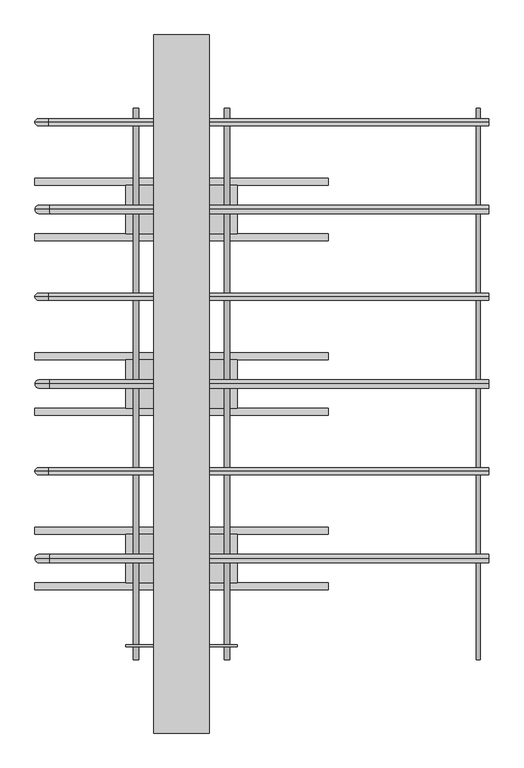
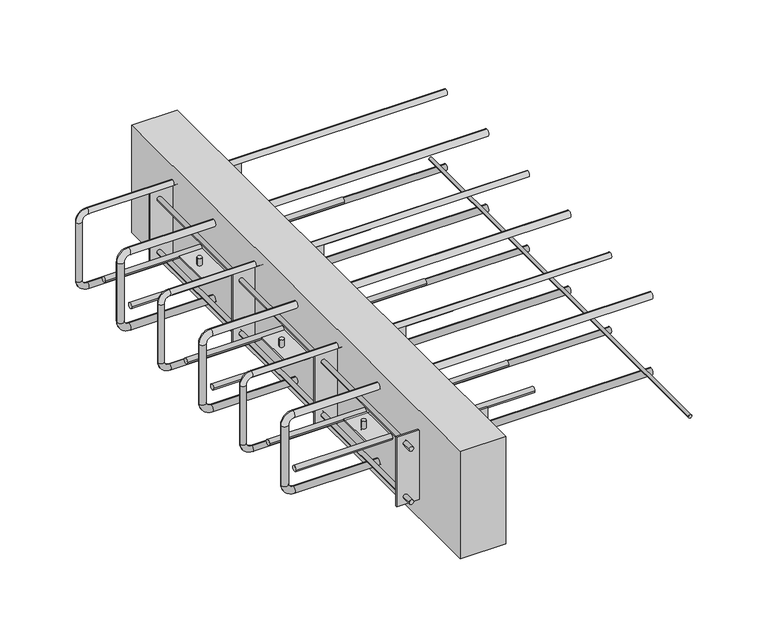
"""IFC4 building model written with IfcOpenShell, lengths in millimetres: fastener geometry, ACINOXplus_Typenreihe_Ux-Ox : UC+ S3."""

from ifc_helpers import new_model, si_unit, point, frame, frame_2d, origin, place, context, project, spatial, polyline, circle_curve, ellipse_curve, trimmed, segment, composite_curve, outline, extrude, source, transform, mapped, element, save
from ifc_brep_helpers import plane_surface, cylinder_surface, revolved_surface, advanced_brep


def fastener_f916d90b(model_context):
    return source(origin(), model_context, "Body", "SolidModel", [
        advanced_brep(
        [(440.0, 0.0, -23.5), (440.0, 0.0, -35.5), (-189.0, 0.0, -23.5), (-189.0, 0.0, -35.5), (-198.0, 0.0, -44.5), (-210.0, 0.0, -44.5), (-210.0, 0.0, -155.5), (-198.0, 0.0, -155.5), (-189.0, 0.0, -164.5), (-189.0, 0.0, -176.5), (440.0, 0.0, -176.5), (440.0, 0.0, -164.5)],
        [
            (0, 1, circle_curve(frame((440.0, 0.0, -29.5), z_axis=(1.0, 0.0, 0.0), x_axis=(0.0, 0.0, -1.0)), 6.0)),
            (1, 0, circle_curve(frame((440.0, 0.0, -29.5), z_axis=(1.0, 0.0, 0.0), x_axis=(0.0, 0.0, -1.0)), 6.0)),
            (0, 2),
            (2, 3, circle_curve(frame((-189.0, 0.0, -29.5), z_axis=(1.0, 0.0, 0.0), x_axis=(0.0, 0.0, -1.0)), 6.0)),
            (3, 1),
            (3, 2, circle_curve(frame((-189.0, 0.0, -29.5), z_axis=(1.0, 0.0, 0.0), x_axis=(0.0, 0.0, -1.0)), 6.0)),
            (4, 3, circle_curve(frame((-189.0, 0.0, -44.5), z_axis=(0.0, 1.0, 0.0), x_axis=(0.0, 0.0, 1.0)), 9.0)),
            (2, 5, circle_curve(frame((-189.0, 0.0, -44.5), z_axis=(0.0, -1.0, 0.0), x_axis=(0.0, 0.0, 1.0)), 21.0)),
            (5, 4, circle_curve(frame((-204.0, 0.0, -44.5), z_axis=(0.0, 0.0, 1.0), x_axis=(1.0, 0.0, 0.0)), 6.0)),
            (4, 5, circle_curve(frame((-204.0, 0.0, -44.5), z_axis=(0.0, 0.0, 1.0), x_axis=(1.0, 0.0, 0.0)), 6.0)),
            (5, 6),
            (6, 7, circle_curve(frame((-204.0, 0.0, -155.5), z_axis=(0.0, 0.0, 1.0), x_axis=(1.0, 0.0, 0.0)), 6.0)),
            (7, 4),
            (7, 6, circle_curve(frame((-204.0, 0.0, -155.5), z_axis=(0.0, 0.0, 1.0), x_axis=(1.0, 0.0, 0.0)), 6.0)),
            (8, 7, circle_curve(frame((-189.0, 0.0, -155.5), z_axis=(0.0, 1.0, 0.0), x_axis=(-1.0, 0.0, 0.0)), 9.0)),
            (6, 9, circle_curve(frame((-189.0, 0.0, -155.5), z_axis=(0.0, -1.0, 0.0), x_axis=(-1.0, 0.0, 0.0)), 21.0)),
            (9, 8, circle_curve(frame((-189.0, 0.0, -170.5), z_axis=(-1.0, 0.0, 0.0), x_axis=(0.0, 0.0, 1.0)), 6.0)),
            (8, 9, circle_curve(frame((-189.0, 0.0, -170.5), z_axis=(-1.0, 0.0, 0.0), x_axis=(0.0, 0.0, 1.0)), 6.0)),
            (10, 11, circle_curve(frame((440.0, 0.0, -170.5), z_axis=(1.0, 0.0, 0.0), x_axis=(0.0, 0.0, 1.0)), 6.0)),
            (11, 10, circle_curve(frame((440.0, 0.0, -170.5), z_axis=(1.0, 0.0, 0.0), x_axis=(0.0, 0.0, 1.0)), 6.0)),
            (9, 10),
            (11, 8),
        ],
        [
            plane_surface(frame((440.0, 0.0, -29.5), z_axis=(1.0, 0.0, 0.0), x_axis=(0.0, -1.0, 0.0))),
            cylinder_surface(frame((440.0, 0.0, -29.5), z_axis=(1.0, 0.0, 0.0), x_axis=(0.0, 0.0, -1.0)), 6.0),
            revolved_surface(trimmed(ellipse_curve(frame((-189.0, 0.0, -29.5), z_axis=(1.0, 0.0, 0.0), x_axis=(0.0, 0.0, -1.0)), 6.0, 6.0), [point((-189.0, 0.0, -23.5))], [point((-189.0, 0.0, -35.5))], True, "CARTESIAN"), (-189.0, 0.0, -44.5), (0.0, -1.0, 0.0)),
            revolved_surface(trimmed(ellipse_curve(frame((-189.0, 0.0, -29.5), z_axis=(1.0, 0.0, 0.0), x_axis=(0.0, 0.0, -1.0)), 6.0, 6.0), [point((-189.0, 0.0, -35.5))], [point((-189.0, 0.0, -23.5))], True, "CARTESIAN"), (-189.0, 0.0, -44.5), (0.0, -1.0, 0.0)),
            cylinder_surface(frame((-204.0, 0.0, -44.5), z_axis=(0.0, 0.0, 1.0), x_axis=(1.0, 0.0, 0.0)), 6.0),
            revolved_surface(trimmed(ellipse_curve(frame((-204.0, 0.0, -155.5), z_axis=(0.0, 0.0, 1.0), x_axis=(1.0, 0.0, 0.0)), 6.0, 6.0), [point((-210.0, 0.0, -155.5))], [point((-198.0, 0.0, -155.5))], True, "CARTESIAN"), (-189.0, 0.0, -155.5), (0.0, -1.0, 0.0)),
            revolved_surface(trimmed(ellipse_curve(frame((-204.0, 0.0, -155.5), z_axis=(0.0, 0.0, 1.0), x_axis=(1.0, 0.0, 0.0)), 6.0, 6.0), [point((-198.0, 0.0, -155.5))], [point((-210.0, 0.0, -155.5))], True, "CARTESIAN"), (-189.0, 0.0, -155.5), (0.0, -1.0, 0.0)),
            plane_surface(frame((440.0, 0.0, -170.5), z_axis=(1.0, 0.0, 0.0), x_axis=(0.0, -1.0, 0.0))),
            cylinder_surface(frame((-189.0, 0.0, -170.5), z_axis=(-1.0, 0.0, 0.0), x_axis=(0.0, 0.0, 1.0)), 6.0),
        ],
        [
            (0, [[1, 2]]),
            (1, [[-1, 3, 4, 5]]),
            (1, [[-2, -5, 6, -3]]),
            (2, [[7, -4, 8, 9]]),
            (3, [[-8, -6, -7, 10]]),
            (4, [[-9, 11, 12, 13]]),
            (4, [[-10, -13, 14, -11]]),
            (5, [[15, -12, 16, 17]]),
            (6, [[-16, -14, -15, 18]]),
            (7, [[19, 20]]),
            (8, [[-17, 21, -20, 22]]),
            (8, [[-18, -22, -19, -21]]),
        ],
    ),
        advanced_brep(
        [(440.0, 250.0, -23.5), (440.0, 250.0, -35.5), (-189.0, 250.0, -23.5), (-189.0, 250.0, -35.5), (-198.0, 250.0, -44.5), (-210.0, 250.0, -44.5), (-210.0, 250.0, -155.5), (-198.0, 250.0, -155.5), (-189.0, 250.0, -164.5), (-189.0, 250.0, -176.5), (440.0, 250.0, -176.5), (440.0, 250.0, -164.5)],
        [
            (0, 1, circle_curve(frame((440.0, 250.0, -29.5), z_axis=(1.0, 0.0, 0.0), x_axis=(0.0, 0.0, -1.0)), 6.0)),
            (1, 0, circle_curve(frame((440.0, 250.0, -29.5), z_axis=(1.0, 0.0, 0.0), x_axis=(0.0, 0.0, -1.0)), 6.0)),
            (0, 2),
            (2, 3, circle_curve(frame((-189.0, 250.0, -29.5), z_axis=(1.0, 0.0, 0.0), x_axis=(0.0, 0.0, -1.0)), 6.0)),
            (3, 1),
            (3, 2, circle_curve(frame((-189.0, 250.0, -29.5), z_axis=(1.0, 0.0, 0.0), x_axis=(0.0, 0.0, -1.0)), 6.0)),
            (4, 3, circle_curve(frame((-189.0, 250.0, -44.5), z_axis=(0.0, 1.0, 0.0), x_axis=(0.0, 0.0, 1.0)), 9.0)),
            (2, 5, circle_curve(frame((-189.0, 250.0, -44.5), z_axis=(0.0, -1.0, 0.0), x_axis=(0.0, 0.0, 1.0)), 21.0)),
            (5, 4, circle_curve(frame((-204.0, 250.0, -44.5), z_axis=(0.0, 0.0, 1.0), x_axis=(1.0, 0.0, 0.0)), 6.0)),
            (4, 5, circle_curve(frame((-204.0, 250.0, -44.5), z_axis=(0.0, 0.0, 1.0), x_axis=(1.0, 0.0, 0.0)), 6.0)),
            (5, 6),
            (6, 7, circle_curve(frame((-204.0, 250.0, -155.5), z_axis=(0.0, 0.0, 1.0), x_axis=(1.0, 0.0, 0.0)), 6.0)),
            (7, 4),
            (7, 6, circle_curve(frame((-204.0, 250.0, -155.5), z_axis=(0.0, 0.0, 1.0), x_axis=(1.0, 0.0, 0.0)), 6.0)),
            (8, 7, circle_curve(frame((-189.0, 250.0, -155.5), z_axis=(0.0, 1.0, 0.0), x_axis=(-1.0, 0.0, 0.0)), 9.0)),
            (6, 9, circle_curve(frame((-189.0, 250.0, -155.5), z_axis=(0.0, -1.0, 0.0), x_axis=(-1.0, 0.0, 0.0)), 21.0)),
            (9, 8, circle_curve(frame((-189.0, 250.0, -170.5), z_axis=(-1.0, 0.0, 0.0), x_axis=(0.0, 0.0, 1.0)), 6.0)),
            (8, 9, circle_curve(frame((-189.0, 250.0, -170.5), z_axis=(-1.0, 0.0, 0.0), x_axis=(0.0, 0.0, 1.0)), 6.0)),
            (10, 11, circle_curve(frame((440.0, 250.0, -170.5), z_axis=(1.0, 0.0, 0.0), x_axis=(0.0, 0.0, 1.0)), 6.0)),
            (11, 10, circle_curve(frame((440.0, 250.0, -170.5), z_axis=(1.0, 0.0, 0.0), x_axis=(0.0, 0.0, 1.0)), 6.0)),
            (9, 10),
            (11, 8),
        ],
        [
            plane_surface(frame((440.0, 250.0, -29.5), z_axis=(1.0, 0.0, 0.0), x_axis=(0.0, -1.0, 0.0))),
            cylinder_surface(frame((440.0, 250.0, -29.5), z_axis=(1.0, 0.0, 0.0), x_axis=(0.0, 0.0, -1.0)), 6.0),
            revolved_surface(trimmed(ellipse_curve(frame((-189.0, 250.0, -29.5), z_axis=(1.0, 0.0, 0.0), x_axis=(0.0, 0.0, -1.0)), 6.0, 6.0), [point((-189.0, 250.0, -23.5))], [point((-189.0, 250.0, -35.5))], True, "CARTESIAN"), (-189.0, 250.0, -44.5), (0.0, -1.0, 0.0)),
            revolved_surface(trimmed(ellipse_curve(frame((-189.0, 250.0, -29.5), z_axis=(1.0, 0.0, 0.0), x_axis=(0.0, 0.0, -1.0)), 6.0, 6.0), [point((-189.0, 250.0, -35.5))], [point((-189.0, 250.0, -23.5))], True, "CARTESIAN"), (-189.0, 250.0, -44.5), (0.0, -1.0, 0.0)),
            cylinder_surface(frame((-204.0, 250.0, -44.5), z_axis=(0.0, 0.0, 1.0), x_axis=(1.0, 0.0, 0.0)), 6.0),
            revolved_surface(trimmed(ellipse_curve(frame((-204.0, 250.0, -155.5), z_axis=(0.0, 0.0, 1.0), x_axis=(1.0, 0.0, 0.0)), 6.0, 6.0), [point((-210.0, 250.0, -155.5))], [point((-198.0, 250.0, -155.5))], True, "CARTESIAN"), (-189.0, 250.0, -155.5), (0.0, -1.0, 0.0)),
            revolved_surface(trimmed(ellipse_curve(frame((-204.0, 250.0, -155.5), z_axis=(0.0, 0.0, 1.0), x_axis=(1.0, 0.0, 0.0)), 6.0, 6.0), [point((-198.0, 250.0, -155.5))], [point((-210.0, 250.0, -155.5))], True, "CARTESIAN"), (-189.0, 250.0, -155.5), (0.0, -1.0, 0.0)),
            plane_surface(frame((440.0, 250.0, -170.5), z_axis=(1.0, 0.0, 0.0), x_axis=(0.0, -1.0, 0.0))),
            cylinder_surface(frame((-189.0, 250.0, -170.5), z_axis=(-1.0, 0.0, 0.0), x_axis=(0.0, 0.0, 1.0)), 6.0),
        ],
        [
            (0, [[1, 2]]),
            (1, [[-1, 3, 4, 5]]),
            (1, [[-2, -5, 6, -3]]),
            (2, [[7, -4, 8, 9]]),
            (3, [[-8, -6, -7, 10]]),
            (4, [[-9, 11, 12, 13]]),
            (4, [[-10, -13, 14, -11]]),
            (5, [[15, -12, 16, 17]]),
            (6, [[-16, -14, -15, 18]]),
            (7, [[19, 20]]),
            (8, [[-17, 21, -20, 22]]),
            (8, [[-18, -22, -19, -21]]),
        ],
    ),
        advanced_brep(
        [(440.0, -250.0, -23.5), (440.0, -250.0, -35.5), (-189.0, -250.0, -23.5), (-189.0, -250.0, -35.5), (-198.0, -250.0, -44.5), (-210.0, -250.0, -44.5), (-210.0, -250.0, -155.5), (-198.0, -250.0, -155.5), (-189.0, -250.0, -164.5), (-189.0, -250.0, -176.5), (440.0, -250.0, -176.5), (440.0, -250.0, -164.5)],
        [
            (0, 1, circle_curve(frame((440.0, -250.0, -29.5), z_axis=(1.0, 0.0, 0.0), x_axis=(0.0, 0.0, -1.0)), 6.0)),
            (1, 0, circle_curve(frame((440.0, -250.0, -29.5), z_axis=(1.0, 0.0, 0.0), x_axis=(0.0, 0.0, -1.0)), 6.0)),
            (0, 2),
            (2, 3, circle_curve(frame((-189.0, -250.0, -29.5), z_axis=(1.0, 0.0, 0.0), x_axis=(0.0, 0.0, -1.0)), 6.0)),
            (3, 1),
            (3, 2, circle_curve(frame((-189.0, -250.0, -29.5), z_axis=(1.0, 0.0, 0.0), x_axis=(0.0, 0.0, -1.0)), 6.0)),
            (4, 3, circle_curve(frame((-189.0, -250.0, -44.5), z_axis=(0.0, 1.0, 0.0), x_axis=(0.0, 0.0, 1.0)), 9.0)),
            (2, 5, circle_curve(frame((-189.0, -250.0, -44.5), z_axis=(0.0, -1.0, 0.0), x_axis=(0.0, 0.0, 1.0)), 21.0)),
            (5, 4, circle_curve(frame((-204.0, -250.0, -44.5), z_axis=(0.0, 0.0, 1.0), x_axis=(1.0, 0.0, 0.0)), 6.0)),
            (4, 5, circle_curve(frame((-204.0, -250.0, -44.5), z_axis=(0.0, 0.0, 1.0), x_axis=(1.0, 0.0, 0.0)), 6.0)),
            (5, 6),
            (6, 7, circle_curve(frame((-204.0, -250.0, -155.5), z_axis=(0.0, 0.0, 1.0), x_axis=(1.0, 0.0, 0.0)), 6.0)),
            (7, 4),
            (7, 6, circle_curve(frame((-204.0, -250.0, -155.5), z_axis=(0.0, 0.0, 1.0), x_axis=(1.0, 0.0, 0.0)), 6.0)),
            (8, 7, circle_curve(frame((-189.0, -250.0, -155.5), z_axis=(0.0, 1.0, 0.0), x_axis=(-1.0, 0.0, 0.0)), 9.0)),
            (6, 9, circle_curve(frame((-189.0, -250.0, -155.5), z_axis=(0.0, -1.0, 0.0), x_axis=(-1.0, 0.0, 0.0)), 21.0)),
            (9, 8, circle_curve(frame((-189.0, -250.0, -170.5), z_axis=(-1.0, 0.0, 0.0), x_axis=(0.0, 0.0, 1.0)), 6.0)),
            (8, 9, circle_curve(frame((-189.0, -250.0, -170.5), z_axis=(-1.0, 0.0, 0.0), x_axis=(0.0, 0.0, 1.0)), 6.0)),
            (10, 11, circle_curve(frame((440.0, -250.0, -170.5), z_axis=(1.0, 0.0, 0.0), x_axis=(0.0, 0.0, 1.0)), 6.0)),
            (11, 10, circle_curve(frame((440.0, -250.0, -170.5), z_axis=(1.0, 0.0, 0.0), x_axis=(0.0, 0.0, 1.0)), 6.0)),
            (9, 10),
            (11, 8),
        ],
        [
            plane_surface(frame((440.0, -250.0, -29.5), z_axis=(1.0, 0.0, 0.0), x_axis=(0.0, -1.0, 0.0))),
            cylinder_surface(frame((440.0, -250.0, -29.5), z_axis=(1.0, 0.0, 0.0), x_axis=(0.0, 0.0, -1.0)), 6.0),
            revolved_surface(trimmed(ellipse_curve(frame((-189.0, -250.0, -29.5), z_axis=(1.0, 0.0, 0.0), x_axis=(0.0, 0.0, -1.0)), 6.0, 6.0), [point((-189.0, -250.0, -23.5))], [point((-189.0, -250.0, -35.5))], True, "CARTESIAN"), (-189.0, -250.0, -44.5), (0.0, -1.0, 0.0)),
            revolved_surface(trimmed(ellipse_curve(frame((-189.0, -250.0, -29.5), z_axis=(1.0, 0.0, 0.0), x_axis=(0.0, 0.0, -1.0)), 6.0, 6.0), [point((-189.0, -250.0, -35.5))], [point((-189.0, -250.0, -23.5))], True, "CARTESIAN"), (-189.0, -250.0, -44.5), (0.0, -1.0, 0.0)),
            cylinder_surface(frame((-204.0, -250.0, -44.5), z_axis=(0.0, 0.0, 1.0), x_axis=(1.0, 0.0, 0.0)), 6.0),
            revolved_surface(trimmed(ellipse_curve(frame((-204.0, -250.0, -155.5), z_axis=(0.0, 0.0, 1.0), x_axis=(1.0, 0.0, 0.0)), 6.0, 6.0), [point((-210.0, -250.0, -155.5))], [point((-198.0, -250.0, -155.5))], True, "CARTESIAN"), (-189.0, -250.0, -155.5), (0.0, -1.0, 0.0)),
            revolved_surface(trimmed(ellipse_curve(frame((-204.0, -250.0, -155.5), z_axis=(0.0, 0.0, 1.0), x_axis=(1.0, 0.0, 0.0)), 6.0, 6.0), [point((-198.0, -250.0, -155.5))], [point((-210.0, -250.0, -155.5))], True, "CARTESIAN"), (-189.0, -250.0, -155.5), (0.0, -1.0, 0.0)),
            plane_surface(frame((440.0, -250.0, -170.5), z_axis=(1.0, 0.0, 0.0), x_axis=(0.0, -1.0, 0.0))),
            cylinder_surface(frame((-189.0, -250.0, -170.5), z_axis=(-1.0, 0.0, 0.0), x_axis=(0.0, 0.0, 1.0)), 6.0),
        ],
        [
            (0, [[1, 2]]),
            (1, [[-1, 3, 4, 5]]),
            (1, [[-2, -5, 6, -3]]),
            (2, [[7, -4, 8, 9]]),
            (3, [[-8, -6, -7, 10]]),
            (4, [[-9, 11, 12, 13]]),
            (4, [[-10, -13, 14, -11]]),
            (5, [[15, -12, 16, 17]]),
            (6, [[-16, -14, -15, 18]]),
            (7, [[19, 20]]),
            (8, [[-17, 21, -20, 22]]),
            (8, [[-18, -22, -19, -21]]),
        ],
    ),
        extrude(outline(composite_curve([segment(trimmed(circle_curve(frame_2d((-161.5, 425.0)), 3.0), [point((-161.5, 428.0))], [point((-161.5, 422.0))], False, "CARTESIAN"), True, "CONTINUOUS"), segment(trimmed(circle_curve(frame_2d((-161.5, 425.0)), 3.0), [point((-161.5, 422.0))], [point((-161.5, 428.0))], False, "CARTESIAN"), True, "CONTINUOUS")], self_intersect=False)), frame((0.0, -395.0, 0.0), z_axis=(0.0, 1.0, 0.0), x_axis=(0.0, 0.0, 1.0)), (0.0, 0.0, 1.0), 790.0),
        extrude(outline(composite_curve([segment(trimmed(circle_curve(frame_2d((-40.0, -100.0)), 5.0), [point((-45.0, -100.0))], [point((-35.0, -100.0))], False, "CARTESIAN"), True, "CONTINUOUS"), segment(trimmed(circle_curve(frame_2d((-40.0, -100.0)), 5.0), [point((-35.0, -100.0))], [point((-45.0, -100.0))], False, "CARTESIAN"), True, "CONTINUOUS")], self_intersect=False)), frame((-210.0, 0.0, 0.0), z_axis=(1.0, 0.0, 0.0), x_axis=(0.0, 1.0, 0.0)), (0.0, 0.0, 1.0), 420.0),
        extrude(outline(composite_curve([segment(trimmed(circle_curve(frame_2d((40.0, -100.0)), 5.0), [point((35.0, -100.0))], [point((45.0, -100.0))], False, "CARTESIAN"), True, "CONTINUOUS"), segment(trimmed(circle_curve(frame_2d((40.0, -100.0)), 5.0), [point((45.0, -100.0))], [point((35.0, -100.0))], False, "CARTESIAN"), True, "CONTINUOUS")], self_intersect=False)), frame((-210.0, 0.0, 0.0), z_axis=(1.0, 0.0, 0.0), x_axis=(0.0, 1.0, 0.0)), (0.0, 0.0, 1.0), 420.0),
        extrude(outline(composite_curve([segment(trimmed(circle_curve(frame_2d((-65.0, 0.0)), 4.0), [point((-61.0, 0.0))], [point((-69.0, 0.0))], False, "CARTESIAN"), True, "CONTINUOUS"), segment(trimmed(circle_curve(frame_2d((-65.0, 0.0)), 4.0), [point((-69.0, 0.0))], [point((-61.0, 0.0))], False, "CARTESIAN"), True, "CONTINUOUS")], self_intersect=False)), frame((0.0, 0.0, -98.5), z_axis=(0.0, 0.0, 1.0), x_axis=(1.0, 0.0, 0.0)), (0.0, 0.0, 1.0), 13.5),
        extrude(outline(composite_curve([segment(trimmed(circle_curve(frame_2d((65.0, 0.0)), 4.0), [point((69.0, 0.0))], [point((61.0, 0.0))], False, "CARTESIAN"), True, "CONTINUOUS"), segment(trimmed(circle_curve(frame_2d((65.0, 0.0)), 4.0), [point((61.0, 0.0))], [point((69.0, 0.0))], False, "CARTESIAN"), True, "CONTINUOUS")], self_intersect=False)), frame((0.0, 0.0, -98.5), z_axis=(0.0, 0.0, 1.0), x_axis=(1.0, 0.0, 0.0)), (0.0, 0.0, 1.0), 13.5),
        extrude(outline(composite_curve([segment(trimmed(circle_curve(frame_2d((-65.0, 0.0)), 4.0), [point((-69.0, 0.0))], [point((-61.0, 0.0))], False, "CARTESIAN"), True, "CONTINUOUS"), segment(trimmed(circle_curve(frame_2d((-65.0, 0.0)), 4.0), [point((-61.0, 0.0))], [point((-69.0, 0.0))], False, "CARTESIAN"), True, "CONTINUOUS")], self_intersect=False)), frame((0.0, 0.0, -115.0), z_axis=(0.0, 0.0, 1.0), x_axis=(1.0, 0.0, 0.0)), (0.0, 0.0, 1.0), 13.5),
        extrude(outline(composite_curve([segment(trimmed(circle_curve(frame_2d((65.0, 0.0)), 4.0), [point((61.0, 0.0))], [point((69.0, 0.0))], False, "CARTESIAN"), True, "CONTINUOUS"), segment(trimmed(circle_curve(frame_2d((65.0, 0.0)), 4.0), [point((69.0, 0.0))], [point((61.0, 0.0))], False, "CARTESIAN"), True, "CONTINUOUS")], self_intersect=False)), frame((0.0, 0.0, -115.0), z_axis=(0.0, 0.0, 1.0), x_axis=(1.0, 0.0, 0.0)), (0.0, 0.0, 1.0), 13.5),
        extrude(outline(polyline([(80.0, 35.0), (80.0, -35.0), (-80.0, -35.0), (-80.0, 35.0), (80.0, 35.0)])), frame((0.0, 0.0, -101.5), z_axis=(0.0, 0.0, 1.0), x_axis=(1.0, 0.0, 0.0)), (0.0, 0.0, 1.0), 3.0),
        extrude(outline(composite_curve([segment(trimmed(circle_curve(frame_2d((-290.0, -100.0)), 5.0), [point((-295.0, -100.0))], [point((-285.0, -100.0))], False, "CARTESIAN"), True, "CONTINUOUS"), segment(trimmed(circle_curve(frame_2d((-290.0, -100.0)), 5.0), [point((-285.0, -100.0))], [point((-295.0, -100.0))], False, "CARTESIAN"), True, "CONTINUOUS")], self_intersect=False)), frame((-210.0, 0.0, 0.0), z_axis=(1.0, 0.0, 0.0), x_axis=(0.0, 1.0, 0.0)), (0.0, 0.0, 1.0), 420.0),
        extrude(outline(composite_curve([segment(trimmed(circle_curve(frame_2d((-210.0, -100.0)), 5.0), [point((-215.0, -100.0))], [point((-205.0, -100.0))], False, "CARTESIAN"), True, "CONTINUOUS"), segment(trimmed(circle_curve(frame_2d((-210.0, -100.0)), 5.0), [point((-205.0, -100.0))], [point((-215.0, -100.0))], False, "CARTESIAN"), True, "CONTINUOUS")], self_intersect=False)), frame((-210.0, 0.0, 0.0), z_axis=(1.0, 0.0, 0.0), x_axis=(0.0, 1.0, 0.0)), (0.0, 0.0, 1.0), 420.0),
        extrude(outline(composite_curve([segment(trimmed(circle_curve(frame_2d((-65.0, -250.0)), 4.0), [point((-61.0, -250.0))], [point((-69.0, -250.0))], False, "CARTESIAN"), True, "CONTINUOUS"), segment(trimmed(circle_curve(frame_2d((-65.0, -250.0)), 4.0), [point((-69.0, -250.0))], [point((-61.0, -250.0))], False, "CARTESIAN"), True, "CONTINUOUS")], self_intersect=False)), frame((0.0, 0.0, -98.5), z_axis=(0.0, 0.0, 1.0), x_axis=(1.0, 0.0, 0.0)), (0.0, 0.0, 1.0), 13.5),
        extrude(outline(composite_curve([segment(trimmed(circle_curve(frame_2d((65.0, -250.0)), 4.0), [point((69.0, -250.0))], [point((61.0, -250.0))], False, "CARTESIAN"), True, "CONTINUOUS"), segment(trimmed(circle_curve(frame_2d((65.0, -250.0)), 4.0), [point((61.0, -250.0))], [point((69.0, -250.0))], False, "CARTESIAN"), True, "CONTINUOUS")], self_intersect=False)), frame((0.0, 0.0, -98.5), z_axis=(0.0, 0.0, 1.0), x_axis=(1.0, 0.0, 0.0)), (0.0, 0.0, 1.0), 13.5),
        extrude(outline(composite_curve([segment(trimmed(circle_curve(frame_2d((-65.0, -250.0)), 4.0), [point((-69.0, -250.0))], [point((-61.0, -250.0))], False, "CARTESIAN"), True, "CONTINUOUS"), segment(trimmed(circle_curve(frame_2d((-65.0, -250.0)), 4.0), [point((-61.0, -250.0))], [point((-69.0, -250.0))], False, "CARTESIAN"), True, "CONTINUOUS")], self_intersect=False)), frame((0.0, 0.0, -115.0), z_axis=(0.0, 0.0, 1.0), x_axis=(1.0, 0.0, 0.0)), (0.0, 0.0, 1.0), 13.5),
        extrude(outline(composite_curve([segment(trimmed(circle_curve(frame_2d((65.0, -250.0)), 4.0), [point((61.0, -250.0))], [point((69.0, -250.0))], False, "CARTESIAN"), True, "CONTINUOUS"), segment(trimmed(circle_curve(frame_2d((65.0, -250.0)), 4.0), [point((69.0, -250.0))], [point((61.0, -250.0))], False, "CARTESIAN"), True, "CONTINUOUS")], self_intersect=False)), frame((0.0, 0.0, -115.0), z_axis=(0.0, 0.0, 1.0), x_axis=(1.0, 0.0, 0.0)), (0.0, 0.0, 1.0), 13.5),
        extrude(outline(polyline([(80.0, -215.0), (80.0, -285.0), (-80.0, -285.0), (-80.0, -215.0), (80.0, -215.0)])), frame((0.0, 0.0, -101.5), z_axis=(0.0, 0.0, 1.0), x_axis=(1.0, 0.0, 0.0)), (0.0, 0.0, 1.0), 3.0),
        extrude(outline(composite_curve([segment(trimmed(circle_curve(frame_2d((210.0, -100.0)), 5.0), [point((205.0, -100.0))], [point((215.0, -100.0))], False, "CARTESIAN"), True, "CONTINUOUS"), segment(trimmed(circle_curve(frame_2d((210.0, -100.0)), 5.0), [point((215.0, -100.0))], [point((205.0, -100.0))], False, "CARTESIAN"), True, "CONTINUOUS")], self_intersect=False)), frame((-210.0, 0.0, 0.0), z_axis=(1.0, 0.0, 0.0), x_axis=(0.0, 1.0, 0.0)), (0.0, 0.0, 1.0), 420.0),
        extrude(outline(composite_curve([segment(trimmed(circle_curve(frame_2d((290.0, -100.0)), 5.0), [point((285.0, -100.0))], [point((295.0, -100.0))], False, "CARTESIAN"), True, "CONTINUOUS"), segment(trimmed(circle_curve(frame_2d((290.0, -100.0)), 5.0), [point((295.0, -100.0))], [point((285.0, -100.0))], False, "CARTESIAN"), True, "CONTINUOUS")], self_intersect=False)), frame((-210.0, 0.0, 0.0), z_axis=(1.0, 0.0, 0.0), x_axis=(0.0, 1.0, 0.0)), (0.0, 0.0, 1.0), 420.0),
        extrude(outline(composite_curve([segment(trimmed(circle_curve(frame_2d((-65.0, 250.0)), 4.0), [point((-61.0, 250.0))], [point((-69.0, 250.0))], False, "CARTESIAN"), True, "CONTINUOUS"), segment(trimmed(circle_curve(frame_2d((-65.0, 250.0)), 4.0), [point((-69.0, 250.0))], [point((-61.0, 250.0))], False, "CARTESIAN"), True, "CONTINUOUS")], self_intersect=False)), frame((0.0, 0.0, -98.5), z_axis=(0.0, 0.0, 1.0), x_axis=(1.0, 0.0, 0.0)), (0.0, 0.0, 1.0), 13.5),
        extrude(outline(composite_curve([segment(trimmed(circle_curve(frame_2d((65.0, 250.0)), 4.0), [point((69.0, 250.0))], [point((61.0, 250.0))], False, "CARTESIAN"), True, "CONTINUOUS"), segment(trimmed(circle_curve(frame_2d((65.0, 250.0)), 4.0), [point((61.0, 250.0))], [point((69.0, 250.0))], False, "CARTESIAN"), True, "CONTINUOUS")], self_intersect=False)), frame((0.0, 0.0, -98.5), z_axis=(0.0, 0.0, 1.0), x_axis=(1.0, 0.0, 0.0)), (0.0, 0.0, 1.0), 13.5),
        extrude(outline(composite_curve([segment(trimmed(circle_curve(frame_2d((-65.0, 250.0)), 4.0), [point((-69.0, 250.0))], [point((-61.0, 250.0))], False, "CARTESIAN"), True, "CONTINUOUS"), segment(trimmed(circle_curve(frame_2d((-65.0, 250.0)), 4.0), [point((-61.0, 250.0))], [point((-69.0, 250.0))], False, "CARTESIAN"), True, "CONTINUOUS")], self_intersect=False)), frame((0.0, 0.0, -115.0), z_axis=(0.0, 0.0, 1.0), x_axis=(1.0, 0.0, 0.0)), (0.0, 0.0, 1.0), 13.5),
        extrude(outline(composite_curve([segment(trimmed(circle_curve(frame_2d((65.0, 250.0)), 4.0), [point((61.0, 250.0))], [point((69.0, 250.0))], False, "CARTESIAN"), True, "CONTINUOUS"), segment(trimmed(circle_curve(frame_2d((65.0, 250.0)), 4.0), [point((69.0, 250.0))], [point((61.0, 250.0))], False, "CARTESIAN"), True, "CONTINUOUS")], self_intersect=False)), frame((0.0, 0.0, -115.0), z_axis=(0.0, 0.0, 1.0), x_axis=(1.0, 0.0, 0.0)), (0.0, 0.0, 1.0), 13.5),
        extrude(outline(polyline([(80.0, 285.0), (80.0, 215.0), (-80.0, 215.0), (-80.0, 285.0), (80.0, 285.0)])), frame((0.0, 0.0, -101.5), z_axis=(0.0, 0.0, 1.0), x_axis=(1.0, 0.0, 0.0)), (0.0, 0.0, 1.0), 3.0),
        extrude(outline(polyline([(40.0, 500.0), (40.0, -500.0), (-40.0, -500.0), (-40.0, 500.0), (40.0, 500.0)])), frame((0.0, 0.0, -200.0), z_axis=(0.0, 0.0, 1.0), x_axis=(1.0, 0.0, 0.0)), (0.0, 0.0, 1.0), 200.0),
        extrude(outline(polyline([(80.0, -123.5), (80.0, -126.5), (-80.0, -126.5), (-80.0, -123.5), (80.0, -123.5)])), frame((0.0, 0.0, -164.5), z_axis=(0.0, 0.0, 1.0), x_axis=(1.0, 0.0, 0.0)), (0.0, 0.0, 1.0), 129.0),
        extrude(outline(polyline([(80.0, 126.5), (80.0, 123.5), (-80.0, 123.5), (-80.0, 126.5), (80.0, 126.5)])), frame((0.0, 0.0, -164.5), z_axis=(0.0, 0.0, 1.0), x_axis=(1.0, 0.0, 0.0)), (0.0, 0.0, 1.0), 129.0),
        extrude(outline(polyline([(80.0, -373.5), (80.0, -376.5), (-80.0, -376.5), (-80.0, -373.5), (80.0, -373.5)])), frame((0.0, 0.0, -164.5), z_axis=(0.0, 0.0, 1.0), x_axis=(1.0, 0.0, 0.0)), (0.0, 0.0, 1.0), 129.0),
        extrude(outline(polyline([(80.0, 376.5), (80.0, 373.5), (-80.0, 373.5), (-80.0, 376.5), (80.0, 376.5)])), frame((0.0, 0.0, -164.5), z_axis=(0.0, 0.0, 1.0), x_axis=(1.0, 0.0, 0.0)), (0.0, 0.0, 1.0), 129.0),
        extrude(outline(composite_curve([segment(trimmed(circle_curve(frame_2d((-149.5, -65.0)), 4.0), [point((-149.5, -61.0))], [point((-149.5, -69.0))], False, "CARTESIAN"), True, "CONTINUOUS"), segment(trimmed(circle_curve(frame_2d((-149.5, -65.0)), 4.0), [point((-149.5, -69.0))], [point((-149.5, -61.0))], False, "CARTESIAN"), True, "CONTINUOUS")], self_intersect=False)), frame((0.0, -395.0, 0.0), z_axis=(0.0, 1.0, 0.0), x_axis=(0.0, 0.0, 1.0)), (0.0, 0.0, 1.0), 18.5),
        extrude(outline(composite_curve([segment(trimmed(circle_curve(frame_2d((-149.5, -65.0)), 4.0), [point((-149.5, -69.0))], [point((-149.5, -61.0))], False, "CARTESIAN"), True, "CONTINUOUS"), segment(trimmed(circle_curve(frame_2d((-149.5, -65.0)), 4.0), [point((-149.5, -61.0))], [point((-149.5, -69.0))], False, "CARTESIAN"), True, "CONTINUOUS")], self_intersect=False)), frame((0.0, -373.5, 0.0), z_axis=(0.0, 1.0, 0.0), x_axis=(0.0, 0.0, 1.0)), (0.0, 0.0, 1.0), 497.0),
        extrude(outline(composite_curve([segment(trimmed(circle_curve(frame_2d((-149.5, -65.0)), 4.0), [point((-149.5, -69.0))], [point((-149.5, -61.0))], False, "CARTESIAN"), True, "CONTINUOUS"), segment(trimmed(circle_curve(frame_2d((-149.5, -65.0)), 4.0), [point((-149.5, -61.0))], [point((-149.5, -69.0))], False, "CARTESIAN"), True, "CONTINUOUS")], self_intersect=False)), frame((0.0, 376.5, 0.0), z_axis=(0.0, 1.0, 0.0), x_axis=(0.0, 0.0, 1.0)), (0.0, 0.0, 1.0), 18.5),
        extrude(outline(composite_curve([segment(trimmed(circle_curve(frame_2d((-149.5, -65.0)), 4.0), [point((-149.5, -69.0))], [point((-149.5, -61.0))], False, "CARTESIAN"), True, "CONTINUOUS"), segment(trimmed(circle_curve(frame_2d((-149.5, -65.0)), 4.0), [point((-149.5, -61.0))], [point((-149.5, -69.0))], False, "CARTESIAN"), True, "CONTINUOUS")], self_intersect=False)), frame((0.0, 126.5, 0.0), z_axis=(0.0, 1.0, 0.0), x_axis=(0.0, 0.0, 1.0)), (0.0, 0.0, 1.0), 247.0),
        extrude(outline(composite_curve([segment(trimmed(circle_curve(frame_2d((-149.5, 65.0)), 4.0), [point((-149.5, 69.0))], [point((-149.5, 61.0))], False, "CARTESIAN"), True, "CONTINUOUS"), segment(trimmed(circle_curve(frame_2d((-149.5, 65.0)), 4.0), [point((-149.5, 61.0))], [point((-149.5, 69.0))], False, "CARTESIAN"), True, "CONTINUOUS")], self_intersect=False)), frame((0.0, -395.0, 0.0), z_axis=(0.0, 1.0, 0.0), x_axis=(0.0, 0.0, 1.0)), (0.0, 0.0, 1.0), 18.5),
        extrude(outline(composite_curve([segment(trimmed(circle_curve(frame_2d((-149.5, 65.0)), 4.0), [point((-149.5, 61.0))], [point((-149.5, 69.0))], False, "CARTESIAN"), True, "CONTINUOUS"), segment(trimmed(circle_curve(frame_2d((-149.5, 65.0)), 4.0), [point((-149.5, 69.0))], [point((-149.5, 61.0))], False, "CARTESIAN"), True, "CONTINUOUS")], self_intersect=False)), frame((0.0, -373.5, 0.0), z_axis=(0.0, 1.0, 0.0), x_axis=(0.0, 0.0, 1.0)), (0.0, 0.0, 1.0), 497.0),
        extrude(outline(composite_curve([segment(trimmed(circle_curve(frame_2d((-149.5, 65.0)), 4.0), [point((-149.5, 61.0))], [point((-149.5, 69.0))], False, "CARTESIAN"), True, "CONTINUOUS"), segment(trimmed(circle_curve(frame_2d((-149.5, 65.0)), 4.0), [point((-149.5, 69.0))], [point((-149.5, 61.0))], False, "CARTESIAN"), True, "CONTINUOUS")], self_intersect=False)), frame((0.0, 376.5, 0.0), z_axis=(0.0, 1.0, 0.0), x_axis=(0.0, 0.0, 1.0)), (0.0, 0.0, 1.0), 18.5),
        extrude(outline(composite_curve([segment(trimmed(circle_curve(frame_2d((-149.5, 65.0)), 4.0), [point((-149.5, 61.0))], [point((-149.5, 69.0))], False, "CARTESIAN"), True, "CONTINUOUS"), segment(trimmed(circle_curve(frame_2d((-149.5, 65.0)), 4.0), [point((-149.5, 69.0))], [point((-149.5, 61.0))], False, "CARTESIAN"), True, "CONTINUOUS")], self_intersect=False)), frame((0.0, 126.5, 0.0), z_axis=(0.0, 1.0, 0.0), x_axis=(0.0, 0.0, 1.0)), (0.0, 0.0, 1.0), 247.0),
        extrude(outline(composite_curve([segment(trimmed(circle_curve(frame_2d((-50.5, -65.0)), 4.0), [point((-50.5, -69.0))], [point((-50.5, -61.0))], False, "CARTESIAN"), True, "CONTINUOUS"), segment(trimmed(circle_curve(frame_2d((-50.5, -65.0)), 4.0), [point((-50.5, -61.0))], [point((-50.5, -69.0))], False, "CARTESIAN"), True, "CONTINUOUS")], self_intersect=False)), frame((0.0, 376.5, 0.0), z_axis=(0.0, 1.0, 0.0), x_axis=(0.0, 0.0, 1.0)), (0.0, 0.0, 1.0), 18.5),
        extrude(outline(composite_curve([segment(trimmed(circle_curve(frame_2d((-50.5, -65.0)), 4.0), [point((-50.5, -61.0))], [point((-50.5, -69.0))], False, "CARTESIAN"), True, "CONTINUOUS"), segment(trimmed(circle_curve(frame_2d((-50.5, -65.0)), 4.0), [point((-50.5, -69.0))], [point((-50.5, -61.0))], False, "CARTESIAN"), True, "CONTINUOUS")], self_intersect=False)), frame((0.0, -395.0, 0.0), z_axis=(0.0, 1.0, 0.0), x_axis=(0.0, 0.0, 1.0)), (0.0, 0.0, 1.0), 18.5),
        extrude(outline(composite_curve([segment(trimmed(circle_curve(frame_2d((-50.5, -65.0)), 4.0), [point((-50.5, -69.0))], [point((-50.5, -61.0))], False, "CARTESIAN"), True, "CONTINUOUS"), segment(trimmed(circle_curve(frame_2d((-50.5, -65.0)), 4.0), [point((-50.5, -61.0))], [point((-50.5, -69.0))], False, "CARTESIAN"), True, "CONTINUOUS")], self_intersect=False)), frame((0.0, -373.5, 0.0), z_axis=(0.0, 1.0, 0.0), x_axis=(0.0, 0.0, 1.0)), (0.0, 0.0, 1.0), 497.0),
        extrude(outline(composite_curve([segment(trimmed(circle_curve(frame_2d((-50.5, -65.0)), 4.0), [point((-50.5, -69.0))], [point((-50.5, -61.0))], False, "CARTESIAN"), True, "CONTINUOUS"), segment(trimmed(circle_curve(frame_2d((-50.5, -65.0)), 4.0), [point((-50.5, -61.0))], [point((-50.5, -69.0))], False, "CARTESIAN"), True, "CONTINUOUS")], self_intersect=False)), frame((0.0, 126.5, 0.0), z_axis=(0.0, 1.0, 0.0), x_axis=(0.0, 0.0, 1.0)), (0.0, 0.0, 1.0), 247.0),
        extrude(outline(composite_curve([segment(trimmed(circle_curve(frame_2d((-50.5, 65.0)), 4.0), [point((-50.5, 61.0))], [point((-50.5, 69.0))], False, "CARTESIAN"), True, "CONTINUOUS"), segment(trimmed(circle_curve(frame_2d((-50.5, 65.0)), 4.0), [point((-50.5, 69.0))], [point((-50.5, 61.0))], False, "CARTESIAN"), True, "CONTINUOUS")], self_intersect=False)), frame((0.0, 376.5, 0.0), z_axis=(0.0, 1.0, 0.0), x_axis=(0.0, 0.0, 1.0)), (0.0, 0.0, 1.0), 18.5),
        extrude(outline(composite_curve([segment(trimmed(circle_curve(frame_2d((-50.5, 65.0)), 4.0), [point((-50.5, 69.0))], [point((-50.5, 61.0))], False, "CARTESIAN"), True, "CONTINUOUS"), segment(trimmed(circle_curve(frame_2d((-50.5, 65.0)), 4.0), [point((-50.5, 61.0))], [point((-50.5, 69.0))], False, "CARTESIAN"), True, "CONTINUOUS")], self_intersect=False)), frame((0.0, -395.0, 0.0), z_axis=(0.0, 1.0, 0.0), x_axis=(0.0, 0.0, 1.0)), (0.0, 0.0, 1.0), 18.5),
        extrude(outline(composite_curve([segment(trimmed(circle_curve(frame_2d((-50.5, 65.0)), 4.0), [point((-50.5, 61.0))], [point((-50.5, 69.0))], False, "CARTESIAN"), True, "CONTINUOUS"), segment(trimmed(circle_curve(frame_2d((-50.5, 65.0)), 4.0), [point((-50.5, 69.0))], [point((-50.5, 61.0))], False, "CARTESIAN"), True, "CONTINUOUS")], self_intersect=False)), frame((0.0, -373.5, 0.0), z_axis=(0.0, 1.0, 0.0), x_axis=(0.0, 0.0, 1.0)), (0.0, 0.0, 1.0), 497.0),
        extrude(outline(composite_curve([segment(trimmed(circle_curve(frame_2d((-50.5, 65.0)), 4.0), [point((-50.5, 61.0))], [point((-50.5, 69.0))], False, "CARTESIAN"), True, "CONTINUOUS"), segment(trimmed(circle_curve(frame_2d((-50.5, 65.0)), 4.0), [point((-50.5, 69.0))], [point((-50.5, 61.0))], False, "CARTESIAN"), True, "CONTINUOUS")], self_intersect=False)), frame((0.0, 126.5, 0.0), z_axis=(0.0, 1.0, 0.0), x_axis=(0.0, 0.0, 1.0)), (0.0, 0.0, 1.0), 247.0),
        advanced_brep(
        [(440.0, 125.0, -25.5), (440.0, 125.0, -35.5), (-190.0, 125.0, -25.5), (-190.0, 125.0, -35.5), (-200.0, 125.0, -45.5), (-210.0, 125.0, -45.5), (-210.0, 125.0, -154.5), (-200.0, 125.0, -154.5), (-190.0, 125.0, -164.5), (-190.0, 125.0, -174.5), (440.0, 125.0, -174.5), (440.0, 125.0, -164.5)],
        [
            (0, 1, circle_curve(frame((440.0, 125.0, -30.5), z_axis=(1.0, 0.0, 0.0), x_axis=(0.0, 0.0, -1.0)), 5.0)),
            (1, 0, circle_curve(frame((440.0, 125.0, -30.5), z_axis=(1.0, 0.0, 0.0), x_axis=(0.0, 0.0, -1.0)), 5.0)),
            (0, 2),
            (2, 3, circle_curve(frame((-190.0, 125.0, -30.5), z_axis=(1.0, 0.0, 0.0), x_axis=(0.0, 0.0, -1.0)), 5.0)),
            (3, 1),
            (3, 2, circle_curve(frame((-190.0, 125.0, -30.5), z_axis=(1.0, 0.0, 0.0), x_axis=(0.0, 0.0, -1.0)), 5.0)),
            (4, 3, circle_curve(frame((-190.0, 125.0, -45.5), z_axis=(0.0, 1.0, 0.0), x_axis=(0.0, 0.0, 1.0)), 10.0)),
            (2, 5, circle_curve(frame((-190.0, 125.0, -45.5), z_axis=(0.0, -1.0, 0.0), x_axis=(0.0, 0.0, 1.0)), 20.0)),
            (5, 4, circle_curve(frame((-205.0, 125.0, -45.5), z_axis=(0.0, 0.0, 1.0), x_axis=(1.0, 0.0, 0.0)), 5.0)),
            (4, 5, circle_curve(frame((-205.0, 125.0, -45.5), z_axis=(0.0, 0.0, 1.0), x_axis=(1.0, 0.0, 0.0)), 5.0)),
            (5, 6),
            (6, 7, circle_curve(frame((-205.0, 125.0, -154.5), z_axis=(0.0, 0.0, 1.0), x_axis=(1.0, 0.0, 0.0)), 5.0)),
            (7, 4),
            (7, 6, circle_curve(frame((-205.0, 125.0, -154.5), z_axis=(0.0, 0.0, 1.0), x_axis=(1.0, 0.0, 0.0)), 5.0)),
            (8, 7, circle_curve(frame((-190.0, 125.0, -154.5), z_axis=(0.0, 1.0, 0.0), x_axis=(-1.0, 0.0, 0.0)), 10.0)),
            (6, 9, circle_curve(frame((-190.0, 125.0, -154.5), z_axis=(0.0, -1.0, 0.0), x_axis=(-1.0, 0.0, 0.0)), 20.0)),
            (9, 8, circle_curve(frame((-190.0, 125.0, -169.5), z_axis=(-1.0, 0.0, 0.0), x_axis=(0.0, 0.0, 1.0)), 5.0)),
            (8, 9, circle_curve(frame((-190.0, 125.0, -169.5), z_axis=(-1.0, 0.0, 0.0), x_axis=(0.0, 0.0, 1.0)), 5.0)),
            (10, 11, circle_curve(frame((440.0, 125.0, -169.5), z_axis=(1.0, 0.0, 0.0), x_axis=(0.0, 0.0, 1.0)), 5.0)),
            (11, 10, circle_curve(frame((440.0, 125.0, -169.5), z_axis=(1.0, 0.0, 0.0), x_axis=(0.0, 0.0, 1.0)), 5.0)),
            (9, 10),
            (11, 8),
        ],
        [
            plane_surface(frame((440.0, 125.0, -30.5), z_axis=(1.0, 0.0, 0.0), x_axis=(0.0, -1.0, 0.0))),
            cylinder_surface(frame((440.0, 125.0, -30.5), z_axis=(1.0, 0.0, 0.0), x_axis=(0.0, 0.0, -1.0)), 5.0),
            revolved_surface(trimmed(ellipse_curve(frame((-190.0, 125.0, -30.5), z_axis=(1.0, 0.0, 0.0), x_axis=(0.0, 0.0, -1.0)), 5.0, 5.0), [point((-190.0, 125.0, -25.5))], [point((-190.0, 125.0, -35.5))], True, "CARTESIAN"), (-190.0, 125.0, -45.5), (0.0, -1.0, 0.0)),
            revolved_surface(trimmed(ellipse_curve(frame((-190.0, 125.0, -30.5), z_axis=(1.0, 0.0, 0.0), x_axis=(0.0, 0.0, -1.0)), 5.0, 5.0), [point((-190.0, 125.0, -35.5))], [point((-190.0, 125.0, -25.5))], True, "CARTESIAN"), (-190.0, 125.0, -45.5), (0.0, -1.0, 0.0)),
            cylinder_surface(frame((-205.0, 125.0, -45.5), z_axis=(0.0, 0.0, 1.0), x_axis=(1.0, 0.0, 0.0)), 5.0),
            revolved_surface(trimmed(ellipse_curve(frame((-205.0, 125.0, -154.5), z_axis=(0.0, 0.0, 1.0), x_axis=(1.0, 0.0, 0.0)), 5.0, 5.0), [point((-210.0, 125.0, -154.5))], [point((-200.0, 125.0, -154.5))], True, "CARTESIAN"), (-190.0, 125.0, -154.5), (0.0, -1.0, 0.0)),
            revolved_surface(trimmed(ellipse_curve(frame((-205.0, 125.0, -154.5), z_axis=(0.0, 0.0, 1.0), x_axis=(1.0, 0.0, 0.0)), 5.0, 5.0), [point((-200.0, 125.0, -154.5))], [point((-210.0, 125.0, -154.5))], True, "CARTESIAN"), (-190.0, 125.0, -154.5), (0.0, -1.0, 0.0)),
            plane_surface(frame((440.0, 125.0, -169.5), z_axis=(1.0, 0.0, 0.0), x_axis=(0.0, -1.0, 0.0))),
            cylinder_surface(frame((-190.0, 125.0, -169.5), z_axis=(-1.0, 0.0, 0.0), x_axis=(0.0, 0.0, 1.0)), 5.0),
        ],
        [
            (0, [[1, 2]]),
            (1, [[-1, 3, 4, 5]]),
            (1, [[-2, -5, 6, -3]]),
            (2, [[7, -4, 8, 9]]),
            (3, [[-8, -6, -7, 10]]),
            (4, [[-9, 11, 12, 13]]),
            (4, [[-10, -13, 14, -11]]),
            (5, [[15, -12, 16, 17]]),
            (6, [[-16, -14, -15, 18]]),
            (7, [[19, 20]]),
            (8, [[-17, 21, -20, 22]]),
            (8, [[-18, -22, -19, -21]]),
        ],
    ),
        advanced_brep(
        [(440.0, -125.0, -25.5), (440.0, -125.0, -35.5), (-190.0, -125.0, -25.5), (-190.0, -125.0, -35.5), (-200.0, -125.0, -45.5), (-210.0, -125.0, -45.5), (-210.0, -125.0, -154.5), (-200.0, -125.0, -154.5), (-190.0, -125.0, -164.5), (-190.0, -125.0, -174.5), (440.0, -125.0, -174.5), (440.0, -125.0, -164.5)],
        [
            (0, 1, circle_curve(frame((440.0, -125.0, -30.5), z_axis=(1.0, 0.0, 0.0), x_axis=(0.0, 0.0, -1.0)), 5.0)),
            (1, 0, circle_curve(frame((440.0, -125.0, -30.5), z_axis=(1.0, 0.0, 0.0), x_axis=(0.0, 0.0, -1.0)), 5.0)),
            (0, 2),
            (2, 3, circle_curve(frame((-190.0, -125.0, -30.5), z_axis=(1.0, 0.0, 0.0), x_axis=(0.0, 0.0, -1.0)), 5.0)),
            (3, 1),
            (3, 2, circle_curve(frame((-190.0, -125.0, -30.5), z_axis=(1.0, 0.0, 0.0), x_axis=(0.0, 0.0, -1.0)), 5.0)),
            (4, 3, circle_curve(frame((-190.0, -125.0, -45.5), z_axis=(0.0, 1.0, 0.0), x_axis=(0.0, 0.0, 1.0)), 10.0)),
            (2, 5, circle_curve(frame((-190.0, -125.0, -45.5), z_axis=(0.0, -1.0, 0.0), x_axis=(0.0, 0.0, 1.0)), 20.0)),
            (5, 4, circle_curve(frame((-205.0, -125.0, -45.5), z_axis=(0.0, 0.0, 1.0), x_axis=(1.0, 0.0, 0.0)), 5.0)),
            (4, 5, circle_curve(frame((-205.0, -125.0, -45.5), z_axis=(0.0, 0.0, 1.0), x_axis=(1.0, 0.0, 0.0)), 5.0)),
            (5, 6),
            (6, 7, circle_curve(frame((-205.0, -125.0, -154.5), z_axis=(0.0, 0.0, 1.0), x_axis=(1.0, 0.0, 0.0)), 5.0)),
            (7, 4),
            (7, 6, circle_curve(frame((-205.0, -125.0, -154.5), z_axis=(0.0, 0.0, 1.0), x_axis=(1.0, 0.0, 0.0)), 5.0)),
            (8, 7, circle_curve(frame((-190.0, -125.0, -154.5), z_axis=(0.0, 1.0, 0.0), x_axis=(-1.0, 0.0, 0.0)), 10.0)),
            (6, 9, circle_curve(frame((-190.0, -125.0, -154.5), z_axis=(0.0, -1.0, 0.0), x_axis=(-1.0, 0.0, 0.0)), 20.0)),
            (9, 8, circle_curve(frame((-190.0, -125.0, -169.5), z_axis=(-1.0, 0.0, 0.0), x_axis=(0.0, 0.0, 1.0)), 5.0)),
            (8, 9, circle_curve(frame((-190.0, -125.0, -169.5), z_axis=(-1.0, 0.0, 0.0), x_axis=(0.0, 0.0, 1.0)), 5.0)),
            (10, 11, circle_curve(frame((440.0, -125.0, -169.5), z_axis=(1.0, 0.0, 0.0), x_axis=(0.0, 0.0, 1.0)), 5.0)),
            (11, 10, circle_curve(frame((440.0, -125.0, -169.5), z_axis=(1.0, 0.0, 0.0), x_axis=(0.0, 0.0, 1.0)), 5.0)),
            (9, 10),
            (11, 8),
        ],
        [
            plane_surface(frame((440.0, -125.0, -30.5), z_axis=(1.0, 0.0, 0.0), x_axis=(0.0, -1.0, 0.0))),
            cylinder_surface(frame((440.0, -125.0, -30.5), z_axis=(1.0, 0.0, 0.0), x_axis=(0.0, 0.0, -1.0)), 5.0),
            revolved_surface(trimmed(ellipse_curve(frame((-190.0, -125.0, -30.5), z_axis=(1.0, 0.0, 0.0), x_axis=(0.0, 0.0, -1.0)), 5.0, 5.0), [point((-190.0, -125.0, -25.5))], [point((-190.0, -125.0, -35.5))], True, "CARTESIAN"), (-190.0, -125.0, -45.5), (0.0, -1.0, 0.0)),
            revolved_surface(trimmed(ellipse_curve(frame((-190.0, -125.0, -30.5), z_axis=(1.0, 0.0, 0.0), x_axis=(0.0, 0.0, -1.0)), 5.0, 5.0), [point((-190.0, -125.0, -35.5))], [point((-190.0, -125.0, -25.5))], True, "CARTESIAN"), (-190.0, -125.0, -45.5), (0.0, -1.0, 0.0)),
            cylinder_surface(frame((-205.0, -125.0, -45.5), z_axis=(0.0, 0.0, 1.0), x_axis=(1.0, 0.0, 0.0)), 5.0),
            revolved_surface(trimmed(ellipse_curve(frame((-205.0, -125.0, -154.5), z_axis=(0.0, 0.0, 1.0), x_axis=(1.0, 0.0, 0.0)), 5.0, 5.0), [point((-210.0, -125.0, -154.5))], [point((-200.0, -125.0, -154.5))], True, "CARTESIAN"), (-190.0, -125.0, -154.5), (0.0, -1.0, 0.0)),
            revolved_surface(trimmed(ellipse_curve(frame((-205.0, -125.0, -154.5), z_axis=(0.0, 0.0, 1.0), x_axis=(1.0, 0.0, 0.0)), 5.0, 5.0), [point((-200.0, -125.0, -154.5))], [point((-210.0, -125.0, -154.5))], True, "CARTESIAN"), (-190.0, -125.0, -154.5), (0.0, -1.0, 0.0)),
            plane_surface(frame((440.0, -125.0, -169.5), z_axis=(1.0, 0.0, 0.0), x_axis=(0.0, -1.0, 0.0))),
            cylinder_surface(frame((-190.0, -125.0, -169.5), z_axis=(-1.0, 0.0, 0.0), x_axis=(0.0, 0.0, 1.0)), 5.0),
        ],
        [
            (0, [[1, 2]]),
            (1, [[-1, 3, 4, 5]]),
            (1, [[-2, -5, 6, -3]]),
            (2, [[7, -4, 8, 9]]),
            (3, [[-8, -6, -7, 10]]),
            (4, [[-9, 11, 12, 13]]),
            (4, [[-10, -13, 14, -11]]),
            (5, [[15, -12, 16, 17]]),
            (6, [[-16, -14, -15, 18]]),
            (7, [[19, 20]]),
            (8, [[-17, 21, -20, 22]]),
            (8, [[-18, -22, -19, -21]]),
        ],
    ),
        advanced_brep(
        [(440.0, 375.0, -25.5), (440.0, 375.0, -35.5), (-190.0, 375.0, -25.5), (-190.0, 375.0, -35.5), (-200.0, 375.0, -45.5), (-210.0, 375.0, -45.5), (-210.0, 375.0, -154.5), (-200.0, 375.0, -154.5), (-190.0, 375.0, -164.5), (-190.0, 375.0, -174.5), (440.0, 375.0, -174.5), (440.0, 375.0, -164.5)],
        [
            (0, 1, circle_curve(frame((440.0, 375.0, -30.5), z_axis=(1.0, 0.0, 0.0), x_axis=(0.0, 0.0, -1.0)), 5.0)),
            (1, 0, circle_curve(frame((440.0, 375.0, -30.5), z_axis=(1.0, 0.0, 0.0), x_axis=(0.0, 0.0, -1.0)), 5.0)),
            (0, 2),
            (2, 3, circle_curve(frame((-190.0, 375.0, -30.5), z_axis=(1.0, 0.0, 0.0), x_axis=(0.0, 0.0, -1.0)), 5.0)),
            (3, 1),
            (3, 2, circle_curve(frame((-190.0, 375.0, -30.5), z_axis=(1.0, 0.0, 0.0), x_axis=(0.0, 0.0, -1.0)), 5.0)),
            (4, 3, circle_curve(frame((-190.0, 375.0, -45.5), z_axis=(0.0, 1.0, 0.0), x_axis=(0.0, 0.0, 1.0)), 10.0)),
            (2, 5, circle_curve(frame((-190.0, 375.0, -45.5), z_axis=(0.0, -1.0, 0.0), x_axis=(0.0, 0.0, 1.0)), 20.0)),
            (5, 4, circle_curve(frame((-205.0, 375.0, -45.5), z_axis=(0.0, 0.0, 1.0), x_axis=(1.0, 0.0, 0.0)), 5.0)),
            (4, 5, circle_curve(frame((-205.0, 375.0, -45.5), z_axis=(0.0, 0.0, 1.0), x_axis=(1.0, 0.0, 0.0)), 5.0)),
            (5, 6),
            (6, 7, circle_curve(frame((-205.0, 375.0, -154.5), z_axis=(0.0, 0.0, 1.0), x_axis=(1.0, 0.0, 0.0)), 5.0)),
            (7, 4),
            (7, 6, circle_curve(frame((-205.0, 375.0, -154.5), z_axis=(0.0, 0.0, 1.0), x_axis=(1.0, 0.0, 0.0)), 5.0)),
            (8, 7, circle_curve(frame((-190.0, 375.0, -154.5), z_axis=(0.0, 1.0, 0.0), x_axis=(-1.0, 0.0, 0.0)), 10.0)),
            (6, 9, circle_curve(frame((-190.0, 375.0, -154.5), z_axis=(0.0, -1.0, 0.0), x_axis=(-1.0, 0.0, 0.0)), 20.0)),
            (9, 8, circle_curve(frame((-190.0, 375.0, -169.5), z_axis=(-1.0, 0.0, 0.0), x_axis=(0.0, 0.0, 1.0)), 5.0)),
            (8, 9, circle_curve(frame((-190.0, 375.0, -169.5), z_axis=(-1.0, 0.0, 0.0), x_axis=(0.0, 0.0, 1.0)), 5.0)),
            (10, 11, circle_curve(frame((440.0, 375.0, -169.5), z_axis=(1.0, 0.0, 0.0), x_axis=(0.0, 0.0, 1.0)), 5.0)),
            (11, 10, circle_curve(frame((440.0, 375.0, -169.5), z_axis=(1.0, 0.0, 0.0), x_axis=(0.0, 0.0, 1.0)), 5.0)),
            (9, 10),
            (11, 8),
        ],
        [
            plane_surface(frame((440.0, 375.0, -30.5), z_axis=(1.0, 0.0, 0.0), x_axis=(0.0, -1.0, 0.0))),
            cylinder_surface(frame((440.0, 375.0, -30.5), z_axis=(1.0, 0.0, 0.0), x_axis=(0.0, 0.0, -1.0)), 5.0),
            revolved_surface(trimmed(ellipse_curve(frame((-190.0, 375.0, -30.5), z_axis=(1.0, 0.0, 0.0), x_axis=(0.0, 0.0, -1.0)), 5.0, 5.0), [point((-190.0, 375.0, -25.5))], [point((-190.0, 375.0, -35.5))], True, "CARTESIAN"), (-190.0, 375.0, -45.5), (0.0, -1.0, 0.0)),
            revolved_surface(trimmed(ellipse_curve(frame((-190.0, 375.0, -30.5), z_axis=(1.0, 0.0, 0.0), x_axis=(0.0, 0.0, -1.0)), 5.0, 5.0), [point((-190.0, 375.0, -35.5))], [point((-190.0, 375.0, -25.5))], True, "CARTESIAN"), (-190.0, 375.0, -45.5), (0.0, -1.0, 0.0)),
            cylinder_surface(frame((-205.0, 375.0, -45.5), z_axis=(0.0, 0.0, 1.0), x_axis=(1.0, 0.0, 0.0)), 5.0),
            revolved_surface(trimmed(ellipse_curve(frame((-205.0, 375.0, -154.5), z_axis=(0.0, 0.0, 1.0), x_axis=(1.0, 0.0, 0.0)), 5.0, 5.0), [point((-210.0, 375.0, -154.5))], [point((-200.0, 375.0, -154.5))], True, "CARTESIAN"), (-190.0, 375.0, -154.5), (0.0, -1.0, 0.0)),
            revolved_surface(trimmed(ellipse_curve(frame((-205.0, 375.0, -154.5), z_axis=(0.0, 0.0, 1.0), x_axis=(1.0, 0.0, 0.0)), 5.0, 5.0), [point((-200.0, 375.0, -154.5))], [point((-210.0, 375.0, -154.5))], True, "CARTESIAN"), (-190.0, 375.0, -154.5), (0.0, -1.0, 0.0)),
            plane_surface(frame((440.0, 375.0, -169.5), z_axis=(1.0, 0.0, 0.0), x_axis=(0.0, -1.0, 0.0))),
            cylinder_surface(frame((-190.0, 375.0, -169.5), z_axis=(-1.0, 0.0, 0.0), x_axis=(0.0, 0.0, 1.0)), 5.0),
        ],
        [
            (0, [[1, 2]]),
            (1, [[-1, 3, 4, 5]]),
            (1, [[-2, -5, 6, -3]]),
            (2, [[7, -4, 8, 9]]),
            (3, [[-8, -6, -7, 10]]),
            (4, [[-9, 11, 12, 13]]),
            (4, [[-10, -13, 14, -11]]),
            (5, [[15, -12, 16, 17]]),
            (6, [[-16, -14, -15, 18]]),
            (7, [[19, 20]]),
            (8, [[-17, 21, -20, 22]]),
            (8, [[-18, -22, -19, -21]]),
        ],
    ),
    ])


if __name__ == "__main__":
    model = new_model("IFC4")
    model_context = context("Model", 3, world=origin())
    ifc_project = project(units=[si_unit("LENGTHUNIT", "METRE", prefix="MILLI")], contexts=[model_context])
    site = spatial("IfcSite", under=ifc_project)
    building = spatial("IfcBuilding", under=site)
    placement = place(None, origin())
    fastener_shape = fastener_f916d90b(model_context)
    element("IfcFastener", 1, ObjectType="ACINOXplus_Typenreihe_Ux-Ox : UC+ S3", at=placement, inside=building, context=model_context, shape_type="MappedRepresentation", body=[
        mapped(fastener_shape, transform((0.0, 0.0, 0.0), x_axis=(1.0, 0.0, 0.0), y_axis=(0.0, 1.0, 0.0), z_axis=(0.0, 0.0, 1.0))),
    ])
    save(model, "model.ifc")
